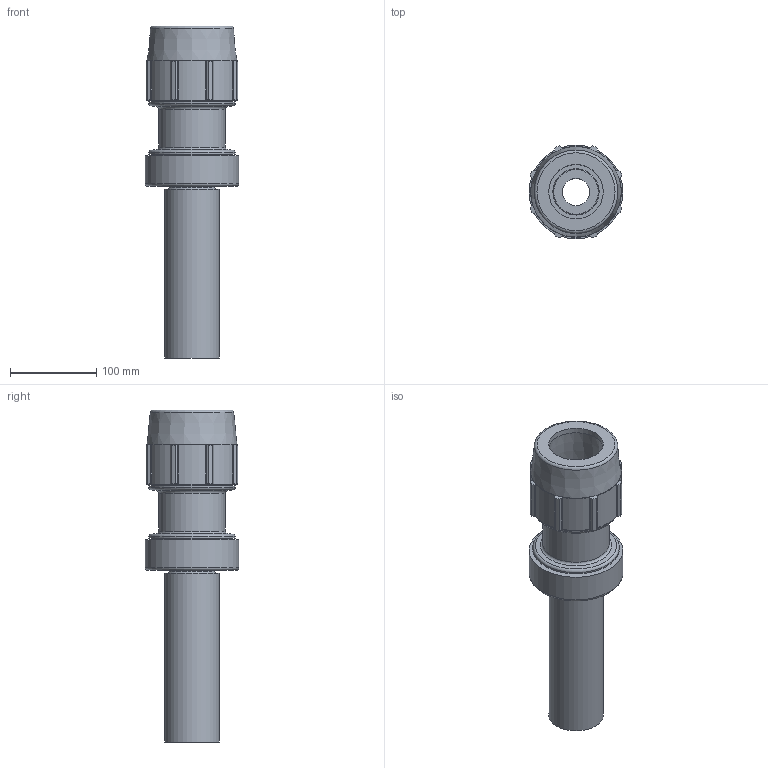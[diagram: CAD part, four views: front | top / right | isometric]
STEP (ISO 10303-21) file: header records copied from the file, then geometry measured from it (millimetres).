
FILE_DESCRIPTION(/* description */ ('Plasson Adjustable Elbow 63 x 63 mm'),/* implementation_level */ '2;1');
FILE_NAME(/* name */ 'C:\Dropbox\KIMPROJECTS-Inventor 2019\99-16-3568-Processing\Mechanical Fittings\07470\074706063.stp',/* time_stamp */ '2023-03-23T11:35:29+02:00',/* author */ ('comp2'),/* organization */ (''),/* preprocessor_version */ 'ST-DEVELOPER v17.2',/* originating_system */ 'Autodesk Inventor 2019',/* authorisation */ '');
FILE_SCHEMA (('AUTOMOTIVE_DESIGN { 1 0 10303 214 3 1 1 }'));
Length unit declared in the file: millimetre
Products named in the file (1): 074706063
Bounding box: 108.47 x 108.47 x 384 mm (x, y, z)
Volume: 1209377.8 mm3; surface area: 251871.8 mm2
Topology: 4 solids, 4 shells, 97 faces, 285 edges, 204 vertices
Faces by surface type: plane 48, cylinder 32, cone 9, torus 7, sphere 1
Full cylindrical faces by diameter (mm): 31.5 x1, 51.66 x1, 53.55 x1, 63 x4, 69.3 x1, 77.175 x1, 91.35 x4, 99.912 x2, 108.475 x1
Entity records: 3401 total; most frequent: CARTESIAN_POINT 651, DIRECTION 597, ORIENTED_EDGE 570, EDGE_CURVE 285, AXIS2_PLACEMENT_3D 246, VERTEX_POINT 204, CIRCLE 148, EDGE_LOOP 113
